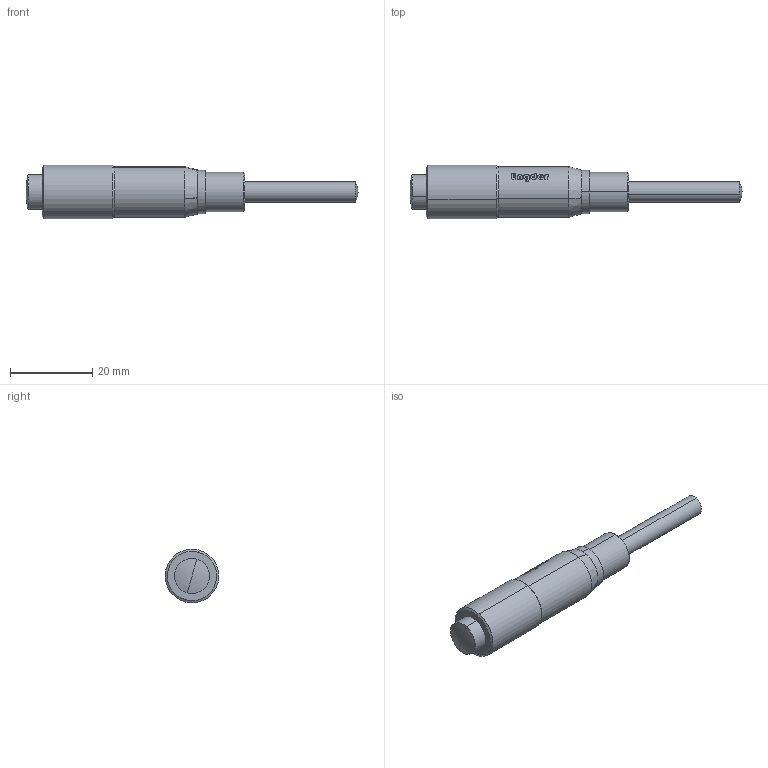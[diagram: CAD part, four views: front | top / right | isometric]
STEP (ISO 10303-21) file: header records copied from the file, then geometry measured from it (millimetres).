
FILE_DESCRIPTION (( 'STEP AP203' ), '1' );
FILE_NAME ('MT25-2_Customer.STEP', '2019-02-13T12:14:00', ( 'User' ), ( 'No' ), 'SwSTEP 2.0', 'SolidWorks 2012', '' );
FILE_SCHEMA (( 'CONFIG_CONTROL_DESIGN' ));
Length unit declared in the file: millimetre
Products named in the file (3): MT25-2_b-customer; MT25-2_a-customer; MT25-2_Customer
Assembly tree (2 placements, depth 2):
  MT25-2_Customer
    MT25-2_b-customer
    MT25-2_a-customer
Bounding box: 80.5 x 12.96 x 12.96 mm (x, y, z)
Volume: 5995.6 mm3; surface area: 6369.1 mm2
Topology: 2 solids, 2 shells, 135 faces, 343 edges, 222 vertices
Faces by surface type: bspline 49, plane 42, cylinder 28, cone 8, torus 6, sphere 2
Entity records: 8504 total; most frequent: CARTESIAN_POINT 5332, ORIENTED_EDGE 682, DIRECTION 456, EDGE_CURVE 341, VERTEX_POINT 222, AXIS2_PLACEMENT_3D 190, B_SPLINE_CURVE_WITH_KNOTS 165, EDGE_LOOP 149
